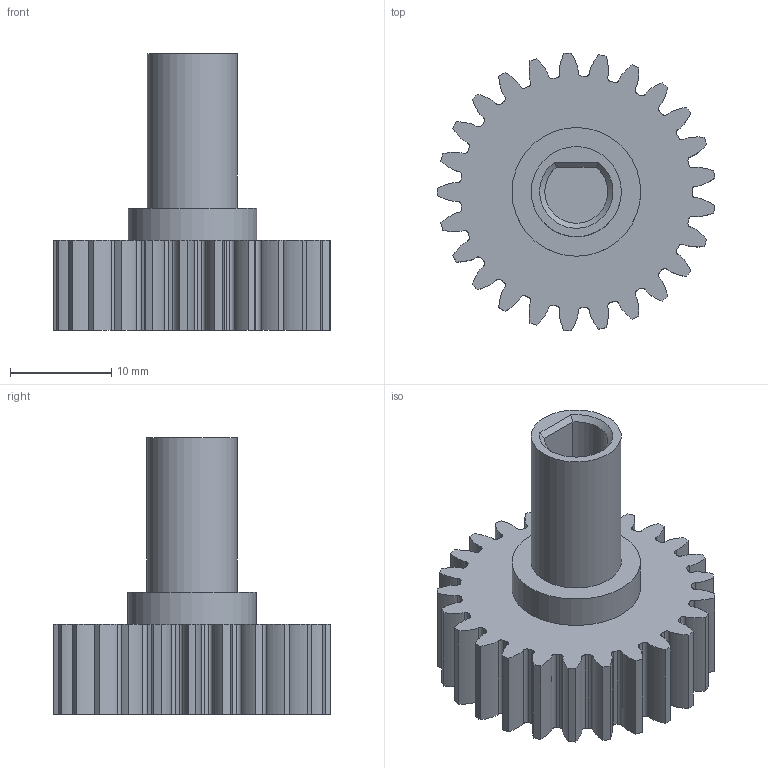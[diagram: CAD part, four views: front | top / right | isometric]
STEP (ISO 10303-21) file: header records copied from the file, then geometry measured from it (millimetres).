
FILE_DESCRIPTION(/* description */ ('STEP AP242 Edition 2','CAx-IF Rec.Pracs.---Representation and Presentation of Product Manufacturing Information (PMI)---4.0---2014-10-13','CAx-IF Rec.Pracs.---3D Tessellated Geometry---0.4---2014-09-14','2;1','CAx-IF Rec.Pracs.---User Defined Attributes---1.5---2016-08-15'),/* implementation_level */ '2;1');
FILE_NAME(/* name */ 'Main - 25t pivot spur gear',/* time_stamp */ '2026-09-13T15:49:56Z',/* author */ (''),/* organization */ (''),/* preprocessor_version */ 'ST-DEVELOPER v20',/* originating_system */ 'ONSHAPE BY PTC INC, 1.220',/* authorisation */ ' ');
FILE_SCHEMA (('AP242_MANAGED_MODEL_BASED_3D_ENGINEERING_MIM_LF { 1 0 10303 442 3 1 4 }'));
Length unit declared in the file: metre
Products named in the file (1): 25t pivot spur gear
Bounding box: 27.36 x 27.41 x 27.3 mm (x, y, z)
Volume: 4818.6 mm3; surface area: 3390 mm2
Topology: 1 solids, 1 shells, 163 faces, 470 edges, 313 vertices
Faces by surface type: cylinder 104, bspline 50, plane 8, cone 1
Full cylindrical faces by diameter (mm): 8.89 x1, 12.7 x2
Entity records: 9345 total; most frequent: CARTESIAN_POINT 5198, ORIENTED_EDGE 932, DIRECTION 801, EDGE_CURVE 466, AXIS2_PLACEMENT_3D 323, VERTEX_POINT 312, CIRCLE 209, EDGE_LOOP 170
